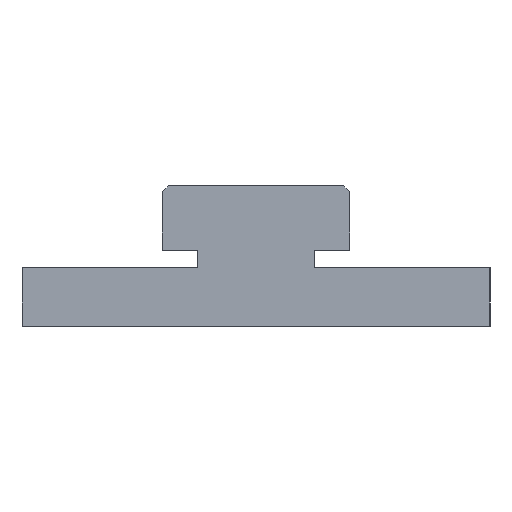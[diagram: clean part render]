
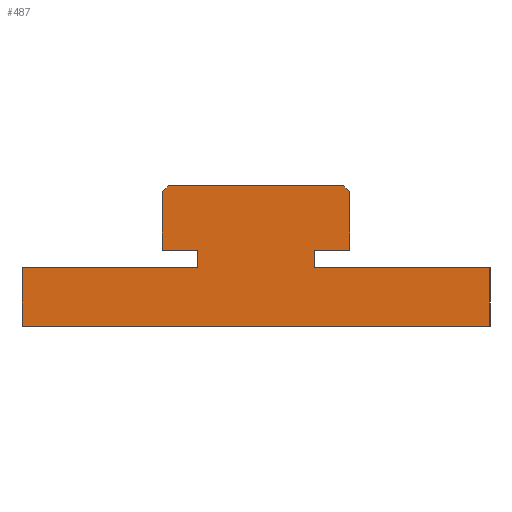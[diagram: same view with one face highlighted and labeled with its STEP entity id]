
A CAD part, left-side view. The second image highlights one B-rep face of the part: STEP entity #487.
In plain terms, the highlighted planar face has unit normal (-1, 0, 0).
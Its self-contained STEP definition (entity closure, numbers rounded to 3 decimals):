
#12 = LINE ( 'NONE', #13, #97 ) ;
#13 = CARTESIAN_POINT ( 'NONE',  ( 0., 5., -5.5 ) ) ;
#23 = VECTOR ( 'NONE', #362, 1000. ) ;
#24 = DIRECTION ( 'NONE',  ( 0., 0., -1. ) ) ;
#29 = CARTESIAN_POINT ( 'NONE',  ( 0., -7.5, 0. ) ) ;
#32 = CARTESIAN_POINT ( 'NONE',  ( 0., -20., -7. ) ) ;
#34 = CARTESIAN_POINT ( 'NONE',  ( 0., 5., -5.5 ) ) ;
#41 = VERTEX_POINT ( 'NONE', #367 ) ;
#49 = ORIENTED_EDGE ( 'NONE', *, *, #303, .F. ) ;
#53 = CARTESIAN_POINT ( 'NONE',  ( 0., -8., -5.5 ) ) ;
#62 = EDGE_CURVE ( 'NONE', #430, #212, #73, .T. ) ;
#65 = DIRECTION ( 'NONE',  ( 0., 1., 0. ) ) ;
#68 = LINE ( 'NONE', #274, #384 ) ;
#70 = ORIENTED_EDGE ( 'NONE', *, *, #528, .F. ) ;
#73 = LINE ( 'NONE', #356, #459 ) ;
#75 = DIRECTION ( 'NONE',  ( 0., 0., -1. ) ) ;
#78 = CARTESIAN_POINT ( 'NONE',  ( 0., 0., 0. ) ) ;
#80 = CARTESIAN_POINT ( 'NONE',  ( 0., -20., -12. ) ) ;
#82 = EDGE_CURVE ( 'NONE', #212, #114, #374, .T. ) ;
#87 = VECTOR ( 'NONE', #428, 1000. ) ;
#89 = ORIENTED_EDGE ( 'NONE', *, *, #62, .F. ) ;
#93 = LINE ( 'NONE', #464, #101 ) ;
#97 = VECTOR ( 'NONE', #137, 1000. ) ;
#98 = VERTEX_POINT ( 'NONE', #425 ) ;
#100 = CARTESIAN_POINT ( 'NONE',  ( 0., -5., -5.5 ) ) ;
#101 = VECTOR ( 'NONE', #140, 1000. ) ;
#114 = VERTEX_POINT ( 'NONE', #100 ) ;
#116 = CARTESIAN_POINT ( 'NONE',  ( 0., -7.5, 0. ) ) ;
#129 = VECTOR ( 'NONE', #223, 1000. ) ;
#132 = EDGE_CURVE ( 'NONE', #500, #309, #169, .T. ) ;
#137 = DIRECTION ( 'NONE',  ( 0., 0., 1. ) ) ;
#140 = DIRECTION ( 'NONE',  ( 0., 1., 0. ) ) ;
#142 = VERTEX_POINT ( 'NONE', #308 ) ;
#145 = LINE ( 'NONE', #525, #517 ) ;
#149 = EDGE_LOOP ( 'NONE', ( #218, #175, #49, #332, #294, #229, #509, #245, #523, #70, #455, #89, #435, #325 ) ) ;
#157 = CARTESIAN_POINT ( 'NONE',  ( 0., -8., -5.5 ) ) ;
#162 = DIRECTION ( 'NONE',  ( 0., 0., 1. ) ) ;
#165 = DIRECTION ( 'NONE',  ( 0., -1., 0. ) ) ;
#169 = LINE ( 'NONE', #383, #87 ) ;
#175 = ORIENTED_EDGE ( 'NONE', *, *, #502, .F. ) ;
#187 = VECTOR ( 'NONE', #324, 1000. ) ;
#189 = EDGE_CURVE ( 'NONE', #309, #375, #93, .T. ) ;
#197 = CARTESIAN_POINT ( 'NONE',  ( 0., 7.5, 0. ) ) ;
#207 = PLANE ( 'NONE',  #485 ) ;
#209 = LINE ( 'NONE', #461, #129 ) ;
#212 = VERTEX_POINT ( 'NONE', #53 ) ;
#218 = ORIENTED_EDGE ( 'NONE', *, *, #385, .F. ) ;
#223 = DIRECTION ( 'NONE',  ( 0., -1., 0. ) ) ;
#226 = EDGE_CURVE ( 'NONE', #142, #41, #248, .T. ) ;
#229 = ORIENTED_EDGE ( 'NONE', *, *, #310, .F. ) ;
#232 = CARTESIAN_POINT ( 'NONE',  ( 0., 20., -12. ) ) ;
#242 = EDGE_CURVE ( 'NONE', #41, #302, #12, .T. ) ;
#245 = ORIENTED_EDGE ( 'NONE', *, *, #132, .F. ) ;
#247 = CARTESIAN_POINT ( 'NONE',  ( 0., -8., -0.5 ) ) ;
#248 = LINE ( 'NONE', #260, #259 ) ;
#250 = EDGE_CURVE ( 'NONE', #506, #315, #209, .T. ) ;
#259 = VECTOR ( 'NONE', #388, 1000. ) ;
#260 = CARTESIAN_POINT ( 'NONE',  ( 0., 5., -7. ) ) ;
#265 = LINE ( 'NONE', #116, #187 ) ;
#274 = CARTESIAN_POINT ( 'NONE',  ( 0., -5., -5.5 ) ) ;
#281 = CARTESIAN_POINT ( 'NONE',  ( 0., 8., -5.5 ) ) ;
#282 = DIRECTION ( 'NONE',  ( 0., 0., 1. ) ) ;
#284 = CARTESIAN_POINT ( 'NONE',  ( 0., 7.5, 0. ) ) ;
#286 = DIRECTION ( 'NONE',  ( -1., 0., 0. ) ) ;
#294 = ORIENTED_EDGE ( 'NONE', *, *, #226, .F. ) ;
#302 = VERTEX_POINT ( 'NONE', #34 ) ;
#303 = EDGE_CURVE ( 'NONE', #302, #98, #394, .T. ) ;
#308 = CARTESIAN_POINT ( 'NONE',  ( 0., 20., -7. ) ) ;
#309 = VERTEX_POINT ( 'NONE', #80 ) ;
#310 = EDGE_CURVE ( 'NONE', #375, #142, #358, .T. ) ;
#315 = VERTEX_POINT ( 'NONE', #29 ) ;
#324 = DIRECTION ( 'NONE',  ( 0., -0.707, -0.707 ) ) ;
#325 = ORIENTED_EDGE ( 'NONE', *, *, #250, .F. ) ;
#332 = ORIENTED_EDGE ( 'NONE', *, *, #242, .F. ) ;
#351 = EDGE_CURVE ( 'NONE', #315, #430, #265, .T. ) ;
#356 = CARTESIAN_POINT ( 'NONE',  ( 0., -8., -0.5 ) ) ;
#358 = LINE ( 'NONE', #370, #378 ) ;
#362 = DIRECTION ( 'NONE',  ( 0., -0.707, 0.707 ) ) ;
#367 = CARTESIAN_POINT ( 'NONE',  ( 0., 5., -7. ) ) ;
#370 = CARTESIAN_POINT ( 'NONE',  ( 0., 20., -7. ) ) ;
#372 = CARTESIAN_POINT ( 'NONE',  ( 0., -5., -7. ) ) ;
#374 = LINE ( 'NONE', #157, #381 ) ;
#375 = VERTEX_POINT ( 'NONE', #232 ) ;
#378 = VECTOR ( 'NONE', #162, 1000. ) ;
#380 = FACE_OUTER_BOUND ( 'NONE', #149, .T. ) ;
#381 = VECTOR ( 'NONE', #65, 1000. ) ;
#383 = CARTESIAN_POINT ( 'NONE',  ( 0., -20., -7. ) ) ;
#384 = VECTOR ( 'NONE', #24, 1000. ) ;
#385 = EDGE_CURVE ( 'NONE', #390, #506, #437, .T. ) ;
#388 = DIRECTION ( 'NONE',  ( 0., -1., 0. ) ) ;
#390 = VERTEX_POINT ( 'NONE', #442 ) ;
#394 = LINE ( 'NONE', #281, #413 ) ;
#399 = LINE ( 'NONE', #476, #458 ) ;
#413 = VECTOR ( 'NONE', #524, 1000. ) ;
#425 = CARTESIAN_POINT ( 'NONE',  ( 0., 8., -5.5 ) ) ;
#428 = DIRECTION ( 'NONE',  ( 0., 0., -1. ) ) ;
#430 = VERTEX_POINT ( 'NONE', #247 ) ;
#435 = ORIENTED_EDGE ( 'NONE', *, *, #351, .F. ) ;
#437 = LINE ( 'NONE', #284, #23 ) ;
#442 = CARTESIAN_POINT ( 'NONE',  ( 0., 8., -0.5 ) ) ;
#443 = DIRECTION ( 'NONE',  ( 0., 0., 1. ) ) ;
#455 = ORIENTED_EDGE ( 'NONE', *, *, #82, .F. ) ;
#458 = VECTOR ( 'NONE', #282, 1000. ) ;
#459 = VECTOR ( 'NONE', #75, 1000. ) ;
#460 = VERTEX_POINT ( 'NONE', #372 ) ;
#461 = CARTESIAN_POINT ( 'NONE',  ( 0., -7.5, 0. ) ) ;
#464 = CARTESIAN_POINT ( 'NONE',  ( 0., 20., -12. ) ) ;
#476 = CARTESIAN_POINT ( 'NONE',  ( 0., 8., -0.5 ) ) ;
#485 = AXIS2_PLACEMENT_3D ( 'NONE', #78, #286, #443 ) ;
#487 = ADVANCED_FACE ( 'NONE', ( #380 ), #207, .T. ) ;
#497 = EDGE_CURVE ( 'NONE', #460, #500, #145, .T. ) ;
#500 = VERTEX_POINT ( 'NONE', #32 ) ;
#502 = EDGE_CURVE ( 'NONE', #98, #390, #399, .T. ) ;
#506 = VERTEX_POINT ( 'NONE', #197 ) ;
#509 = ORIENTED_EDGE ( 'NONE', *, *, #189, .F. ) ;
#517 = VECTOR ( 'NONE', #165, 1000. ) ;
#523 = ORIENTED_EDGE ( 'NONE', *, *, #497, .F. ) ;
#524 = DIRECTION ( 'NONE',  ( 0., 1., 0. ) ) ;
#525 = CARTESIAN_POINT ( 'NONE',  ( 0., -5., -7. ) ) ;
#528 = EDGE_CURVE ( 'NONE', #114, #460, #68, .T. ) ;
